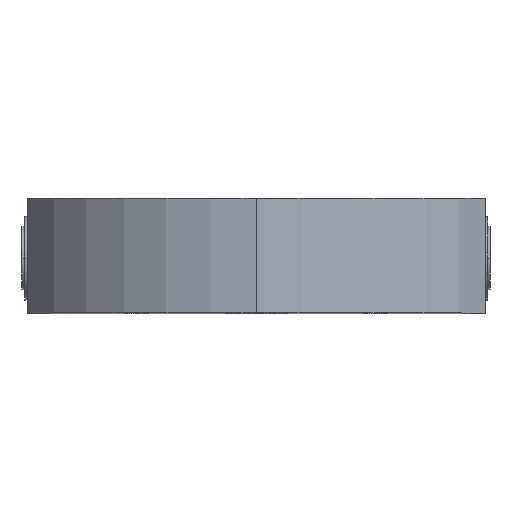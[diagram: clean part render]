
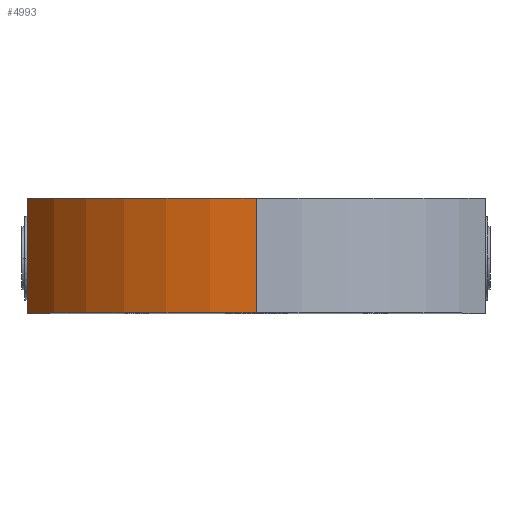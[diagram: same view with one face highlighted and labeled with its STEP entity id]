
A CAD part, top view. The second image highlights one B-rep face of the part: STEP entity #4993.
In plain terms, the highlighted cylindrical face has radius 58 mm (diameter 116 mm), a partial arc.
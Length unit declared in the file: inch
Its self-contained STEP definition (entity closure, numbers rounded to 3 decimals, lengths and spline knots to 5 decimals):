
#279 = CARTESIAN_POINT ( 'NONE',  ( 0., 0.98425, 0. ) ) ;
#377 = VERTEX_POINT ( 'NONE', #4070 ) ;
#668 = EDGE_CURVE ( 'NONE', #4192, #1475, #4199, .T. ) ;
#865 = ORIENTED_EDGE ( 'NONE', *, *, #2096, .T. ) ;
#997 = ORIENTED_EDGE ( 'NONE', *, *, #668, .F. ) ;
#1074 = VECTOR ( 'NONE', #1899, 39.37008 ) ;
#1105 = CARTESIAN_POINT ( 'NONE',  ( 0., 0., 2.28346 ) ) ;
#1174 = CARTESIAN_POINT ( 'NONE',  ( -1.9685, 0., 1.15724 ) ) ;
#1234 = CIRCLE ( 'NONE', #2200, 2.28346 ) ;
#1275 = DIRECTION ( 'NONE',  ( 0., 1., 0. ) ) ;
#1313 = LINE ( 'NONE', #4081, #1074 ) ;
#1337 = CARTESIAN_POINT ( 'NONE',  ( 0., 0., 0. ) ) ;
#1475 = VERTEX_POINT ( 'NONE', #3693 ) ;
#1638 = CYLINDRICAL_SURFACE ( 'NONE', #2300, 2.28346 ) ;
#1876 = DIRECTION ( 'NONE',  ( 0., 1., 0. ) ) ;
#1899 = DIRECTION ( 'NONE',  ( 0., 1., 0. ) ) ;
#1939 = VECTOR ( 'NONE', #5796, 39.37008 ) ;
#2096 = EDGE_CURVE ( 'NONE', #377, #6384, #1234, .T. ) ;
#2200 = AXIS2_PLACEMENT_3D ( 'NONE', #1337, #1876, #4999 ) ;
#2300 = AXIS2_PLACEMENT_3D ( 'NONE', #4408, #1275, #5981 ) ;
#2544 = ORIENTED_EDGE ( 'NONE', *, *, #6356, .T. ) ;
#2661 = CARTESIAN_POINT ( 'NONE',  ( -1.9685, 0.98425, 1.15724 ) ) ;
#2961 = EDGE_LOOP ( 'NONE', ( #865, #6658, #997, #2544 ) ) ;
#3404 = DIRECTION ( 'NONE',  ( 0., 0., 1. ) ) ;
#3693 = CARTESIAN_POINT ( 'NONE',  ( 0., 0.98425, 2.28346 ) ) ;
#3976 = AXIS2_PLACEMENT_3D ( 'NONE', #279, #6445, #3404 ) ;
#4070 = CARTESIAN_POINT ( 'NONE',  ( -1.9685, 0., 1.15724 ) ) ;
#4081 = CARTESIAN_POINT ( 'NONE',  ( 0., 0., 2.28346 ) ) ;
#4192 = VERTEX_POINT ( 'NONE', #2661 ) ;
#4199 = CIRCLE ( 'NONE', #3976, 2.28346 ) ;
#4408 = CARTESIAN_POINT ( 'NONE',  ( 0., 0., 0. ) ) ;
#4993 = ADVANCED_FACE ( 'NONE', ( #6551 ), #1638, .T. ) ;
#4999 = DIRECTION ( 'NONE',  ( 0., 0., 1. ) ) ;
#5065 = LINE ( 'NONE', #1174, #1939 ) ;
#5143 = EDGE_CURVE ( 'NONE', #6384, #1475, #1313, .T. ) ;
#5796 = DIRECTION ( 'NONE',  ( 0., -1., 0. ) ) ;
#5981 = DIRECTION ( 'NONE',  ( 0., 0., 1. ) ) ;
#6356 = EDGE_CURVE ( 'NONE', #4192, #377, #5065, .T. ) ;
#6384 = VERTEX_POINT ( 'NONE', #1105 ) ;
#6445 = DIRECTION ( 'NONE',  ( 0., 1., 0. ) ) ;
#6551 = FACE_OUTER_BOUND ( 'NONE', #2961, .T. ) ;
#6658 = ORIENTED_EDGE ( 'NONE', *, *, #5143, .T. ) ;
